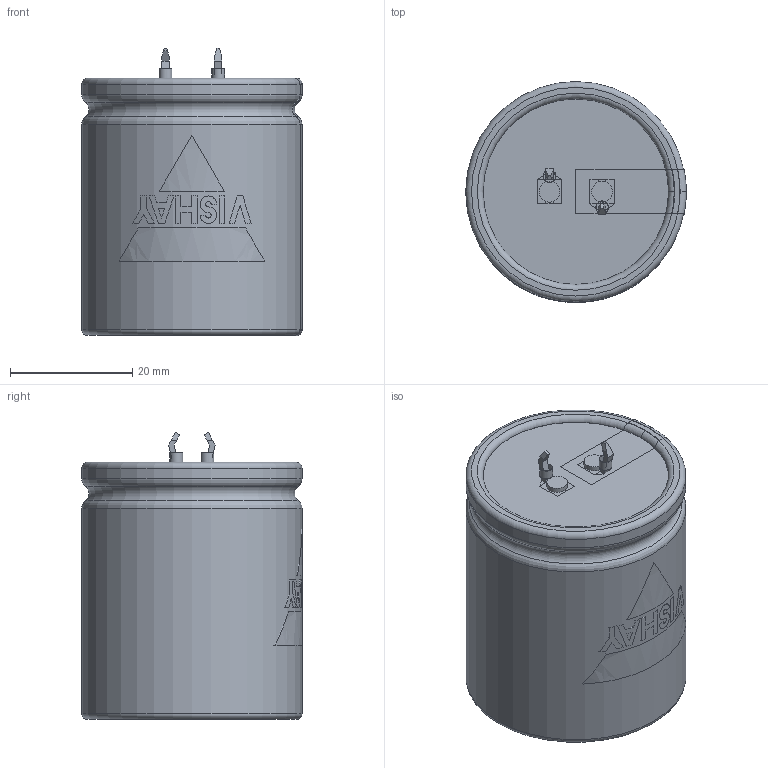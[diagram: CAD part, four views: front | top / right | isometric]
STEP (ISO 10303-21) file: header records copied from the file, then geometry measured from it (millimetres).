
FILE_DESCRIPTION(('FreeCAD Model'),'2;1');
FILE_NAME( 'C:/Users/Gebruiker/Documents/FreeCAD/SnapIn_35x40_2pin_4.0.step', '2020-11-12T20:39:51',('Author'),(''), 'Open CASCADE STEP processor 6.8','FreeCAD','Unknown');
FILE_SCHEMA(('AUTOMOTIVE_DESIGN_CC2 { 1 2 10303 214 -1 1 5 4 }'));
Length unit declared in the file: millimetre
Products named in the file (9): ASSEMBLY; TerminalMin; TerminalPlus; PCBHoles; Disc; BottomInsulation; Can3D; InkMinusBar; InkLogo
Assembly tree (8 placements, depth 2):
  ASSEMBLY
    TerminalMin
    TerminalPlus
    PCBHoles
    Disc
    BottomInsulation
    Can3D
    InkMinusBar
    InkLogo
Bounding box: 36.05 x 36.05 x 46.95 mm (x, y, z)
Volume: 49031.3 mm3; surface area: 17089.1 mm2
Topology: 16 solids, 16 shells, 188 faces, 457 edges, 299 vertices
Faces by surface type: plane 141, cylinder 29, torus 18
Full cylindrical faces by diameter (mm): 2 x2, 2.1 x2, 3.4 x2, 28.8 x2, 30.3 x1, 36 x2
Entity records: 19335 total; most frequent: CARTESIAN_POINT 9033, DIRECTION 1618, ORIENTED_EDGE 914, PCURVE 914, DEFINITIONAL_REPRESENTATION 914, LINE 895, VECTOR 895, EDGE_CURVE 457
